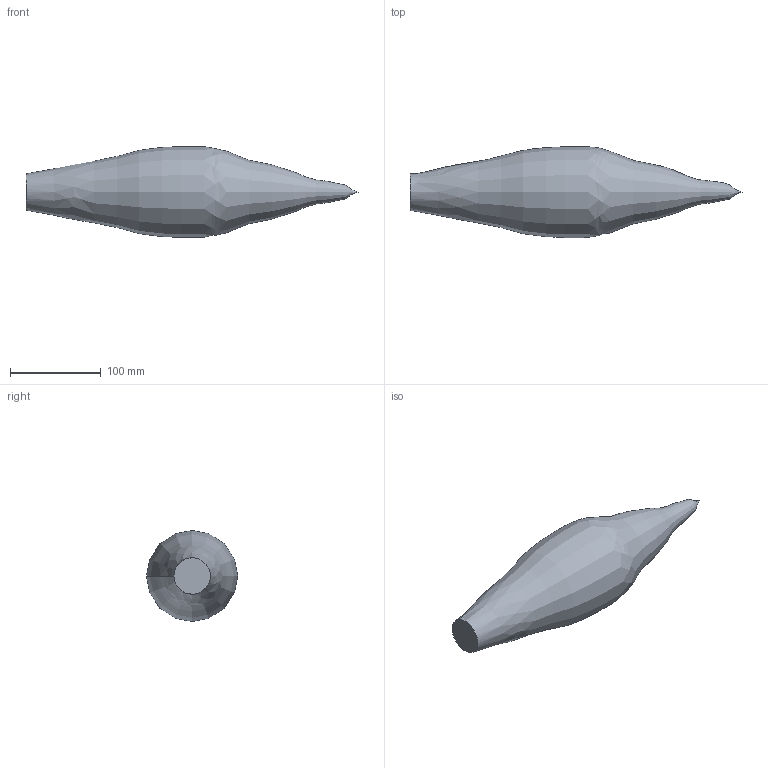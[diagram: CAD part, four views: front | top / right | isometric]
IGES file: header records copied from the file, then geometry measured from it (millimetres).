
Global section: file name: No Iges File Name specified; native system: AutoDesk Inventor R6.1; preprocessor: AutoDesk Inventor Iges Exporter R6.1; author: No Author specified; organization: No Organization specified; date: 20050811.082234; units: millimetre
Bounding box: 365 x 100.32 x 100.07 mm (x, y, z)
Surface area: 78022.9 mm2 (no closed solid volume)
Topology: 0 solids, 0 shells, 2 faces, 5 edges, 3 vertices
Faces by surface type: bspline 1, plane 1
